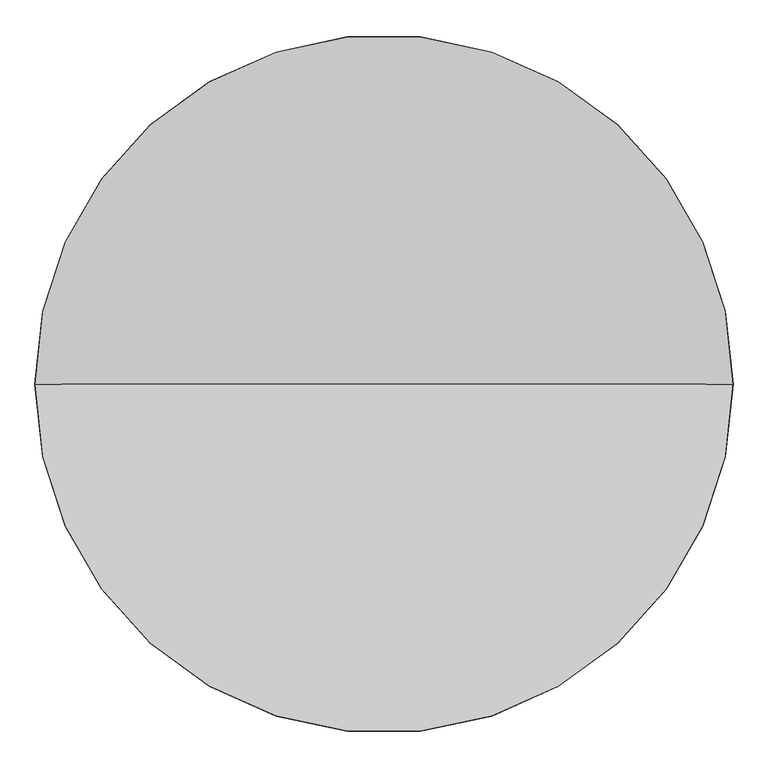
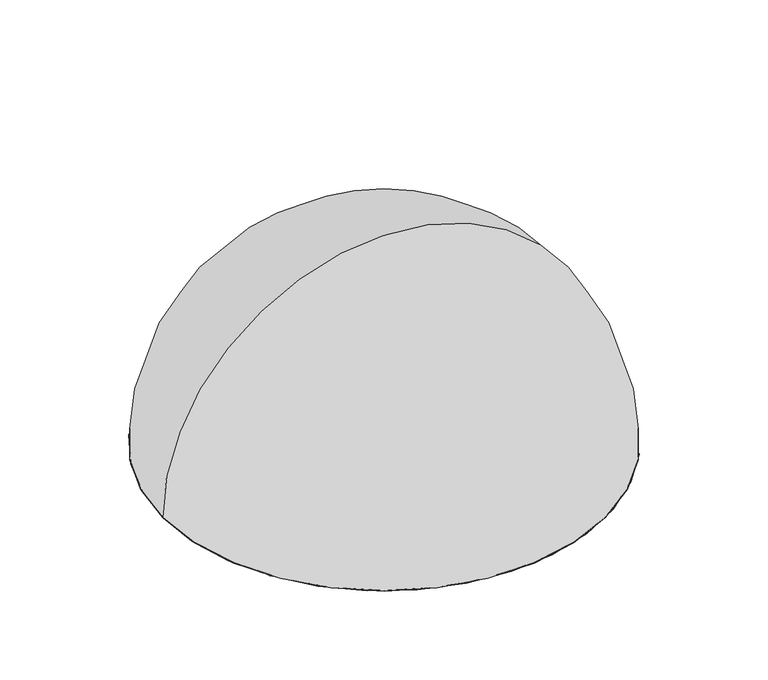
"""IFC4 building model written with IfcOpenShell, lengths in millimetres: alarm geometry, 4400I_Analog Multi Detector : 4400I-B_4412F-B."""

from ifc_helpers import new_model, si_unit, point, frame, origin, origin_with_axes, origin_2d, place, context, project, spatial, polyline, circle_curve, ellipse_curve, trimmed, segment, composite_curve, outline, extrude, source, transform, mapped, element, save
from ifc_brep_helpers import plane_surface, cylinder_surface, revolved_surface, advanced_brep


def alarm_aebe6886(model_context):
    return source(origin(), model_context, "Body", "SolidModel", [
        advanced_brep(
        [(49.4021885, 0.0, 27.3), (-49.4021885, 0.0, 27.3), (-29.0341186, 0.0, 34.1490601), (29.0341186, 0.0, 34.1490601), (46.9790343, 0.0, 27.3), (-46.9790343, 0.0, 27.3), (26.6109644, 0.0, 34.1490601), (-26.6109644, 0.0, 34.1490601)],
        [
            (0, 1, circle_curve(frame((0.0, 0.0, 27.3), z_axis=(0.0, 0.0, 1.0), x_axis=(-1.0, 0.0, 0.0)), 49.4021885)),
            (1, 2),
            (2, 3, circle_curve(frame((0.0, 0.0, 34.1490601), z_axis=(0.0, 0.0, -1.0), x_axis=(-1.0, 0.0, 0.0)), 29.0341186)),
            (3, 0),
            (1, 0, circle_curve(frame((0.0, 0.0, 27.3), z_axis=(0.0, 0.0, 1.0), x_axis=(-1.0, 0.0, 0.0)), 49.4021885)),
            (3, 2, circle_curve(frame((0.0, 0.0, 34.1490601), z_axis=(0.0, 0.0, -1.0), x_axis=(-1.0, 0.0, 0.0)), 29.0341186)),
            (4, 5, circle_curve(frame((0.0, 0.0, 27.3), z_axis=(0.0, 0.0, 1.0), x_axis=(-1.0, 0.0, 0.0)), 46.9790343)),
            (5, 1),
            (0, 4),
            (5, 4, circle_curve(frame((0.0, 0.0, 27.3), z_axis=(0.0, 0.0, 1.0), x_axis=(-1.0, 0.0, 0.0)), 46.9790343)),
            (6, 7, circle_curve(frame((0.0, 0.0, 34.1490601), z_axis=(0.0, 0.0, 1.0), x_axis=(-1.0, 0.0, 0.0)), 26.6109644)),
            (7, 5),
            (4, 6),
            (7, 6, circle_curve(frame((0.0, 0.0, 34.1490601), z_axis=(0.0, 0.0, 1.0), x_axis=(-1.0, 0.0, 0.0)), 26.6109644)),
            (2, 7),
            (6, 3),
        ],
        [
            revolved_surface(polyline([(-29.0341186, 0.0, 34.1490601), (-49.4021885, 0.0, 27.3)]), (0.0, 0.0, 2617.6581012), (0.0, 0.0, -1.0)),
            plane_surface(frame((0.0, 0.0, 27.3), z_axis=(0.0, 0.0, -1.0), x_axis=(-1.0, 0.0, 0.0))),
            revolved_surface(polyline([(-46.9790343, 0.0, 27.3), (-26.6109644, 0.0, 34.1490601)]), (0.0, 0.0, 2617.6581012), (0.0, 0.0, -1.0)),
            plane_surface(frame((0.0, 0.0, 34.1490601), z_axis=(0.0, 0.0, 1.0), x_axis=(-1.0, 0.0, 0.0))),
        ],
        [
            (0, [[1, 2, 3, 4]]),
            (0, [[5, -4, 6, -2]]),
            (1, [[7, 8, -1, 9]]),
            (1, [[10, -9, -5, -8]]),
            (2, [[11, 12, -7, 13]]),
            (2, [[14, -13, -10, -12]]),
            (3, [[-3, 15, -11, 16]]),
            (3, [[-6, -16, -14, -15]]),
        ],
    ),
        advanced_brep(
        [(-25.0, 0.0, 55.6), (25.0, 0.0, 55.6), (-10.2364426, 22.8082275, 34.1490601), (-7.8171012, 23.7464298, 34.1490601), (-6.566365, 19.9470011, 34.1490601), (-0.7601379, 20.9862381, 34.1490601), (-0.7748533, 24.9879892, 34.1490601), (1.8194655, 24.933703, 34.1490601), (1.528351, 20.9443105, 34.1490601), (7.2926143, 19.6930895, 34.1490601), (8.8036125, 23.3986411, 34.1490601), (11.1815896, 22.3600549, 34.1490601), (9.3925353, 18.7824461, 34.1490601), (14.2453716, 15.4294973, 34.1490601), (17.0541691, 18.2799157, 34.1490601), (18.857118, 16.4136864, 34.1490601), (15.8399791, 13.7874966, 34.1490601), (19.0494019, 8.8385682, 34.1490601), (22.7323284, 10.4039053, 34.1490601), (23.688298, 7.9915291, 34.1490601), (19.8981703, 6.7128844, 34.1490601), (20.9800803, 0.9144573, 34.1490601), (24.9816149, 0.9586025, 34.1490601), (25.0, 0.0, 34.1490601), (24.9464097, -1.6360453, 34.1490601), (20.9549841, -1.3742781, 34.1490601), (19.7461893, -7.1475874, 34.1490601), (23.4627531, -8.6312929, 34.1490601), (22.4416834, -11.0168438, 34.1490601), (18.851014, -9.2541488, 34.1490601), (15.5338454, -14.1315126, 34.1490601), (18.4048435, -16.9192711, 34.1490601), (16.5519242, -18.7358962, 34.1490601), (13.9036163, -15.7381528, 34.1490601), (8.978425, -18.9838849, 34.1490601), (10.5708052, -22.6551998, 34.1490601), (8.1655248, -23.628885, 34.1490601), (6.8590408, -19.8482634, 34.1490601), (1.0687273, -20.9727877, 34.1490601), (1.1422999, -24.9738894, 34.1490601), (-1.4525367, -24.9577671, 34.1490601), (-1.2201308, -20.9645243, 34.1490601), (-7.0021739, -19.7982211, 34.1490601), (-8.4585064, -23.5255961, 34.1490601), (-10.8515021, -22.5220981, 34.1490601), (-9.1152617, -18.9185624, 34.1490601), (-14.0168893, -15.6373532, 34.1490601), (-16.7834581, -18.5287758, 34.1490601), (-18.613661, -16.6892667, 34.1490601), (-15.6354753, -14.018984, 34.1490601), (-18.9173411, -9.1177961, 34.1490601), (-22.5768458, -10.7371334, 34.1490601), (-23.5681939, -8.3390788, 34.1490601), (-19.7972829, -7.0048262, 34.1490601), (-20.9643607, -1.2229394, 34.1490601), (-24.9648131, -1.3259355, 34.1490601), (-25.0, 0.0, 34.1490601), (-24.9677746, 1.2689495, 34.1490601), (-20.9729306, 1.0659176, 34.1490601), (-19.8491821, 6.8563817, 34.1490601), (-23.5871666, 8.2852624, 34.1490601), (-22.2772169, 11.3457307, 34.1490601), (-18.7128622, 9.5304138, 34.1490601), (-15.3243147, 14.3584602, 34.1490601), (-18.1539992, 17.1881446, 34.1490601), (-16.2745608, 18.9773199, 34.1490601), (-13.6706311, 15.9409487, 34.1490601), (-8.6982334, 19.1138885, 34.1490601), (-24.9648131, -1.3259355, 53.5967715), (-23.5681939, -8.3390788, 53.5967715), (-22.5768458, -10.7371334, 53.5967715), (-18.613661, -16.6892667, 53.5967715), (-16.7834581, -18.5287758, 53.5967715), (-10.8515021, -22.5220981, 53.5967715), (-8.4585064, -23.5255961, 53.5967715), (-1.4525367, -24.9577671, 53.5967715), (1.1422999, -24.9738894, 53.5967715), (8.1655248, -23.628885, 53.5967715), (10.5708052, -22.6551998, 53.5967715), (16.5519242, -18.7358962, 53.5967715), (18.4048435, -16.9192711, 53.5967715), (22.4416834, -11.0168438, 53.5967715), (23.4627531, -8.6312929, 53.5967715), (24.9464097, -1.6360453, 53.5967715), (24.9816149, 0.9586025, 53.5967715), (23.688298, 7.9915291, 53.5967715), (22.7323284, 10.4039053, 53.5967715), (18.857118, 16.4136864, 53.5967715), (17.0541691, 18.2799157, 53.5967715), (11.1815896, 22.3600549, 53.5967715), (8.8036125, 23.3986411, 53.5967715), (1.8194655, 24.933703, 53.5967715), (-0.7748533, 24.9879892, 53.5967715), (-7.8171012, 23.7464298, 53.5967715), (-10.2364426, 22.8082275, 53.5967715), (-16.2745608, 18.9773199, 53.5967715), (-18.1539992, 17.1881446, 53.5967715), (-22.2772169, 11.3457307, 53.5967715), (-23.5871666, 8.2852624, 53.5967715), (-24.9677746, 1.2689495, 53.5967715), (-8.6982334, 19.1138885, 53.5967715), (-13.6706311, 15.9409487, 53.5967715), (-0.7601379, 20.9862381, 53.5967715), (-6.566365, 19.9470011, 53.5967715), (7.2926143, 19.6930895, 53.5967715), (1.528351, 20.9443105, 53.5967715), (14.2453716, 15.4294973, 53.5967715), (9.3925353, 18.7824461, 53.5967715), (19.0494019, 8.8385682, 53.5967715), (15.8399791, 13.7874966, 53.5967715), (20.9800803, 0.9144573, 53.5967715), (19.8981703, 6.7128844, 53.5967715), (19.7461893, -7.1475874, 53.5967715), (20.9549841, -1.3742781, 53.5967715), (15.5338454, -14.1315126, 53.5967715), (18.851014, -9.2541488, 53.5967715), (8.978425, -18.9838849, 53.5967715), (13.9036163, -15.7381528, 53.5967715), (1.0687273, -20.9727877, 53.5967715), (6.8590408, -19.8482634, 53.5967715), (-7.0021739, -19.7982211, 53.5967715), (-1.2201308, -20.9645243, 53.5967715), (-14.0168893, -15.6373532, 53.5967715), (-9.1152617, -18.9185624, 53.5967715), (-18.9173411, -9.1177961, 53.5967715), (-15.6354753, -14.018984, 53.5967715), (-20.9643607, -1.2229394, 53.5967715), (-19.7972829, -7.0048262, 53.5967715), (-19.8491821, 6.8563817, 53.5967715), (-20.9729306, 1.0659176, 53.5967715), (-15.3243147, 14.3584602, 53.5967715), (-18.7128622, 9.5304138, 53.5967715)],
        [
            (0, 1, circle_curve(frame((0.0, 0.0, 55.6), z_axis=(0.0, 0.0, 1.0), x_axis=(1.0, 0.0, 0.0)), 25.0)),
            (1, 0, circle_curve(frame((0.0, 0.0, 55.6), z_axis=(0.0, 0.0, 1.0), x_axis=(1.0, 0.0, 0.0)), 25.0)),
            (2, 3, circle_curve(frame((0.0, 0.0, 34.1490601), z_axis=(0.0, 0.0, -1.0), x_axis=(1.0, 0.0, 0.0)), 25.0)),
            (3, 4),
            (4, 5, circle_curve(frame((0.0, 0.0, 34.1490601), z_axis=(0.0, 0.0, -1.0), x_axis=(0.7097021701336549, -0.7045018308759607, 0.0)), 21.0)),
            (5, 6),
            (6, 7, circle_curve(frame((0.0, 0.0, 34.1490601), z_axis=(0.0, 0.0, -1.0), x_axis=(1.0, 0.0, 0.0)), 25.0)),
            (7, 8),
            (8, 9, circle_curve(frame((0.0, 0.0, 34.1490601), z_axis=(0.0, 0.0, -1.0), x_axis=(0.38777352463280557, -0.9217546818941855, 0.0)), 21.0)),
            (9, 10),
            (10, 11, circle_curve(frame((0.0, 0.0, 34.1490601), z_axis=(0.0, 0.0, -1.0), x_axis=(1.0, 0.0, 0.0)), 25.0)),
            (11, 12),
            (12, 13, circle_curve(frame((0.0, 0.0, 34.1490601), z_axis=(0.0, 0.0, -1.0), x_axis=(0.0073543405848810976, -0.9999729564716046, 0.0)), 21.0)),
            (13, 14),
            (14, 15, circle_curve(frame((0.0, 0.0, 34.1490601), z_axis=(0.0, 0.0, -1.0), x_axis=(1.0, 0.0, 0.0)), 25.0)),
            (15, 16),
            (16, 17, circle_curve(frame((0.0, 0.0, 34.1490601), z_axis=(0.0, 0.0, -1.0), x_axis=(-0.3741741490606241, -0.9273584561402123, 0.0)), 21.0)),
            (17, 18),
            (18, 19, circle_curve(frame((0.0, 0.0, 34.1490601), z_axis=(0.0, 0.0, -1.0), x_axis=(1.0, 0.0, 0.0)), 25.0)),
            (19, 20),
            (20, 21, circle_curve(frame((0.0, 0.0, 34.1490601), z_axis=(0.0, 0.0, -1.0), x_axis=(-0.6992633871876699, -0.7148641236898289, 0.0)), 21.0)),
            (21, 22),
            (22, 23, circle_curve(frame((0.0, 0.0, 34.1490601), z_axis=(0.0, 0.0, -1.0), x_axis=(1.0, 0.0, 0.0)), 25.0)),
            (23, 24, circle_curve(frame((0.0, 0.0, 34.1490601), z_axis=(0.0, 0.0, -1.0), x_axis=(1.0, 0.0, 0.0)), 25.0)),
            (24, 25),
            (25, 26, circle_curve(frame((0.0, 0.0, 34.1490601), z_axis=(0.0, 0.0, -1.0), x_axis=(-0.9188779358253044, -0.39454193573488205, 0.0)), 21.0)),
            (26, 27),
            (27, 28, circle_curve(frame((0.0, 0.0, 34.1490601), z_axis=(0.0, 0.0, -1.0), x_axis=(1.0, 0.0, 0.0)), 25.0)),
            (28, 29),
            (29, 30, circle_curve(frame((0.0, 0.0, 34.1490601), z_axis=(0.0, 0.0, -1.0), x_axis=(-0.9998918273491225, -0.014708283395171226, 0.0)), 21.0)),
            (30, 31),
            (31, 32, circle_curve(frame((0.0, 0.0, 34.1490601), z_axis=(0.0, 0.0, -1.0), x_axis=(1.0, 0.0, 0.0)), 25.0)),
            (32, 33),
            (33, 34, circle_curve(frame((0.0, 0.0, 34.1490601), z_axis=(0.0, 0.0, -1.0), x_axis=(-0.9300851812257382, 0.3673439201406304, 0.0)), 21.0)),
            (34, 35),
            (35, 36, circle_curve(frame((0.0, 0.0, 34.1490601), z_axis=(0.0, 0.0, -1.0), x_axis=(1.0, 0.0, 0.0)), 25.0)),
            (36, 37),
            (37, 38, circle_curve(frame((0.0, 0.0, 34.1490601), z_axis=(0.0, 0.0, -1.0), x_axis=(-0.7199874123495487, 0.6939871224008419, 0.0)), 21.0)),
            (38, 39),
            (39, 40, circle_curve(frame((0.0, 0.0, 34.1490601), z_axis=(0.0, 0.0, -1.0), x_axis=(1.0, 0.0, 0.0)), 25.0)),
            (40, 41),
            (41, 42, circle_curve(frame((0.0, 0.0, 34.1490601), z_axis=(0.0, 0.0, -1.0), x_axis=(-0.4012890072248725, 0.9159514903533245, 0.0)), 21.0)),
            (42, 43),
            (43, 44, circle_curve(frame((0.0, 0.0, 34.1490601), z_axis=(0.0, 0.0, -1.0), x_axis=(1.0, 0.0, 0.0)), 25.0)),
            (44, 45),
            (45, 46, circle_curve(frame((0.0, 0.0, 34.1490601), z_axis=(0.0, 0.0, -1.0), x_axis=(-0.022061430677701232, 0.9997566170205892, 0.0)), 21.0)),
            (46, 47),
            (47, 48, circle_curve(frame((0.0, 0.0, 34.1490601), z_axis=(0.0, 0.0, -1.0), x_axis=(1.0, 0.0, 0.0)), 25.0)),
            (48, 49),
            (49, 50, circle_curve(frame((0.0, 0.0, 34.1490601), z_axis=(0.0, 0.0, -1.0), x_axis=(0.36049382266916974, 0.9327616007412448, 0.0)), 21.0)),
            (50, 51),
            (51, 52, circle_curve(frame((0.0, 0.0, 34.1490601), z_axis=(0.0, 0.0, -1.0), x_axis=(1.0, 0.0, 0.0)), 25.0)),
            (52, 53),
            (53, 54, circle_curve(frame((0.0, 0.0, 34.1490601), z_axis=(0.0, 0.0, -1.0), x_axis=(0.6886733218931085, 0.7250717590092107, 0.0)), 21.0)),
            (54, 55),
            (55, 56, circle_curve(frame((0.0, 0.0, 34.1490601), z_axis=(0.0, 0.0, -1.0), x_axis=(1.0, 0.0, 0.0)), 25.0)),
            (56, 57, circle_curve(frame((0.0, 0.0, 34.1490601), z_axis=(0.0, 0.0, -1.0), x_axis=(1.0, 0.0, 0.0)), 25.0)),
            (57, 58),
            (58, 59, circle_curve(frame((0.0, 0.0, 34.1490601), z_axis=(0.0, 0.0, -1.0), x_axis=(0.9129755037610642, 0.4080143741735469, 0.0)), 21.0)),
            (59, 60),
            (60, 61, circle_curve(frame((0.0, 0.0, 34.1490601), z_axis=(0.0, 0.0, -1.0), x_axis=(1.0, 0.0, 0.0)), 25.0)),
            (61, 62),
            (62, 63, circle_curve(frame((0.0, 0.0, 34.1490601), z_axis=(0.0, 0.0, -1.0), x_axis=(1.0, 0.0, 0.0)), 21.0)),
            (63, 64),
            (64, 65, circle_curve(frame((0.0, 0.0, 34.1490601), z_axis=(0.0, 0.0, -1.0), x_axis=(1.0, 0.0, 0.0)), 25.0)),
            (65, 66),
            (66, 67, circle_curve(frame((0.0, 0.0, 34.1490601), z_axis=(0.0, 0.0, -1.0), x_axis=(0.9245815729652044, -0.3809841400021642, 0.0)), 21.0)),
            (67, 2),
            (0, 56),
            (55, 68),
            (68, 69, circle_curve(frame((0.0, 0.0, 53.5967715), z_axis=(0.0, 0.0, 1.0), x_axis=(1.0, 0.0, 0.0)), 25.0)),
            (69, 52),
            (51, 70),
            (70, 71, circle_curve(frame((0.0, 0.0, 53.5967715), z_axis=(0.0, 0.0, 1.0), x_axis=(1.0, 0.0, 0.0)), 25.0)),
            (71, 48),
            (47, 72),
            (72, 73, circle_curve(frame((0.0, 0.0, 53.5967715), z_axis=(0.0, 0.0, 1.0), x_axis=(1.0, 0.0, 0.0)), 25.0)),
            (73, 44),
            (43, 74),
            (74, 75, circle_curve(frame((0.0, 0.0, 53.5967715), z_axis=(0.0, 0.0, 1.0), x_axis=(1.0, 0.0, 0.0)), 25.0)),
            (75, 40),
            (39, 76),
            (76, 77, circle_curve(frame((0.0, 0.0, 53.5967715), z_axis=(0.0, 0.0, 1.0), x_axis=(1.0, 0.0, 0.0)), 25.0)),
            (77, 36),
            (35, 78),
            (78, 79, circle_curve(frame((0.0, 0.0, 53.5967715), z_axis=(0.0, 0.0, 1.0), x_axis=(1.0, 0.0, 0.0)), 25.0)),
            (79, 32),
            (31, 80),
            (80, 81, circle_curve(frame((0.0, 0.0, 53.5967715), z_axis=(0.0, 0.0, 1.0), x_axis=(1.0, 0.0, 0.0)), 25.0)),
            (81, 28),
            (27, 82),
            (82, 83, circle_curve(frame((0.0, 0.0, 53.5967715), z_axis=(0.0, 0.0, 1.0), x_axis=(1.0, 0.0, 0.0)), 25.0)),
            (83, 24),
            (23, 1),
            (22, 84),
            (84, 85, circle_curve(frame((0.0, 0.0, 53.5967715), z_axis=(0.0, 0.0, 1.0), x_axis=(1.0, 0.0, 0.0)), 25.0)),
            (85, 19),
            (18, 86),
            (86, 87, circle_curve(frame((0.0, 0.0, 53.5967715), z_axis=(0.0, 0.0, 1.0), x_axis=(1.0, 0.0, 0.0)), 25.0)),
            (87, 15),
            (14, 88),
            (88, 89, circle_curve(frame((0.0, 0.0, 53.5967715), z_axis=(0.0, 0.0, 1.0), x_axis=(1.0, 0.0, 0.0)), 25.0)),
            (89, 11),
            (10, 90),
            (90, 91, circle_curve(frame((0.0, 0.0, 53.5967715), z_axis=(0.0, 0.0, 1.0), x_axis=(1.0, 0.0, 0.0)), 25.0)),
            (91, 7),
            (6, 92),
            (92, 93, circle_curve(frame((0.0, 0.0, 53.5967715), z_axis=(0.0, 0.0, 1.0), x_axis=(1.0, 0.0, 0.0)), 25.0)),
            (93, 3),
            (2, 94),
            (94, 95, circle_curve(frame((0.0, 0.0, 53.5967715), z_axis=(0.0, 0.0, 1.0), x_axis=(1.0, 0.0, 0.0)), 25.0)),
            (95, 65),
            (64, 96),
            (96, 97, circle_curve(frame((0.0, 0.0, 53.5967715), z_axis=(0.0, 0.0, 1.0), x_axis=(1.0, 0.0, 0.0)), 25.0)),
            (97, 61),
            (60, 98),
            (98, 99, circle_curve(frame((0.0, 0.0, 53.5967715), z_axis=(0.0, 0.0, 1.0), x_axis=(1.0, 0.0, 0.0)), 25.0)),
            (99, 57),
            (100, 101, circle_curve(frame((0.0, 0.0, 53.5967715), z_axis=(0.0, 0.0, 1.0), x_axis=(0.9245815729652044, -0.3809841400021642, 0.0)), 21.0)),
            (101, 95),
            (94, 100),
            (102, 103, circle_curve(frame((0.0, 0.0, 53.5967715), z_axis=(0.0, 0.0, 1.0), x_axis=(0.7097021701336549, -0.7045018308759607, 0.0)), 21.0)),
            (103, 93),
            (92, 102),
            (104, 105, circle_curve(frame((0.0, 0.0, 53.5967715), z_axis=(0.0, 0.0, 1.0), x_axis=(0.38777352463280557, -0.9217546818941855, 0.0)), 21.0)),
            (105, 91),
            (90, 104),
            (106, 107, circle_curve(frame((0.0, 0.0, 53.5967715), z_axis=(0.0, 0.0, 1.0), x_axis=(0.0073543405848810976, -0.9999729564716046, 0.0)), 21.0)),
            (107, 89),
            (88, 106),
            (108, 109, circle_curve(frame((0.0, 0.0, 53.5967715), z_axis=(0.0, 0.0, 1.0), x_axis=(-0.3741741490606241, -0.9273584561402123, 0.0)), 21.0)),
            (109, 87),
            (86, 108),
            (110, 111, circle_curve(frame((0.0, 0.0, 53.5967715), z_axis=(0.0, 0.0, 1.0), x_axis=(-0.6992633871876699, -0.7148641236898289, 0.0)), 21.0)),
            (111, 85),
            (84, 110),
            (112, 113, circle_curve(frame((0.0, 0.0, 53.5967715), z_axis=(0.0, 0.0, 1.0), x_axis=(-0.9188779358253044, -0.39454193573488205, 0.0)), 21.0)),
            (113, 83),
            (82, 112),
            (114, 115, circle_curve(frame((0.0, 0.0, 53.5967715), z_axis=(0.0, 0.0, 1.0), x_axis=(-0.9998918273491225, -0.014708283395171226, 0.0)), 21.0)),
            (115, 81),
            (80, 114),
            (116, 117, circle_curve(frame((0.0, 0.0, 53.5967715), z_axis=(0.0, 0.0, 1.0), x_axis=(-0.9300851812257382, 0.3673439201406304, 0.0)), 21.0)),
            (117, 79),
            (78, 116),
            (118, 119, circle_curve(frame((0.0, 0.0, 53.5967715), z_axis=(0.0, 0.0, 1.0), x_axis=(-0.7199874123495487, 0.6939871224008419, 0.0)), 21.0)),
            (119, 77),
            (76, 118),
            (120, 121, circle_curve(frame((0.0, 0.0, 53.5967715), z_axis=(0.0, 0.0, 1.0), x_axis=(-0.4012890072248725, 0.9159514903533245, 0.0)), 21.0)),
            (121, 75),
            (74, 120),
            (122, 123, circle_curve(frame((0.0, 0.0, 53.5967715), z_axis=(0.0, 0.0, 1.0), x_axis=(-0.022061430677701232, 0.9997566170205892, 0.0)), 21.0)),
            (123, 73),
            (72, 122),
            (124, 125, circle_curve(frame((0.0, 0.0, 53.5967715), z_axis=(0.0, 0.0, 1.0), x_axis=(0.36049382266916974, 0.9327616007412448, 0.0)), 21.0)),
            (125, 71),
            (70, 124),
            (126, 127, circle_curve(frame((0.0, 0.0, 53.5967715), z_axis=(0.0, 0.0, 1.0), x_axis=(0.6886733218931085, 0.7250717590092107, 0.0)), 21.0)),
            (127, 69),
            (68, 126),
            (128, 129, circle_curve(frame((0.0, 0.0, 53.5967715), z_axis=(0.0, 0.0, 1.0), x_axis=(0.9129755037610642, 0.4080143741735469, 0.0)), 21.0)),
            (129, 99),
            (98, 128),
            (130, 131, circle_curve(frame((0.0, 0.0, 53.5967715), z_axis=(0.0, 0.0, 1.0), x_axis=(1.0, 0.0, 0.0)), 21.0)),
            (131, 97),
            (96, 130),
            (100, 67),
            (66, 101),
            (102, 5),
            (4, 103),
            (104, 9),
            (8, 105),
            (106, 13),
            (12, 107),
            (108, 17),
            (16, 109),
            (110, 21),
            (20, 111),
            (26, 112),
            (113, 25),
            (30, 114),
            (115, 29),
            (34, 116),
            (117, 33),
            (119, 37),
            (118, 38),
            (42, 120),
            (121, 41),
            (46, 122),
            (123, 45),
            (125, 49),
            (124, 50),
            (127, 53),
            (126, 54),
            (128, 59),
            (58, 129),
            (130, 63),
            (62, 131),
        ],
        [
            plane_surface(frame((25.0, 0.0, 55.6), z_axis=(0.0, 0.0, 1.0), x_axis=(0.0, 1.0, 0.0))),
            plane_surface(frame((25.0, 0.0, 34.1490601), z_axis=(0.0, 0.0, -1.0), x_axis=(0.0, -1.0, 0.0))),
            cylinder_surface(frame((0.0, 0.0, 34.1490601), z_axis=(0.0, 0.0, 1.0), x_axis=(1.0, 0.0, 0.0)), 25.0),
            plane_surface(frame((19.416213, -8.0006669, 53.5967715), z_axis=(0.0, 0.0, -1.0), x_axis=(-0.38098414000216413, -0.9245815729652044, 0.0))),
            cylinder_surface(frame((0.0, 0.0, 34.1490601), z_axis=(0.0, 0.0, -1.0000000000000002), x_axis=(0.9245815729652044, -0.3809841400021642, 0.0)), 21.0),
            plane_surface(frame((-8.6982334, 19.1138885, 53.5967715), z_axis=(-0.9231743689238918, -0.3843814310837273, 0.0), x_axis=(0.0, 0.0, -1.0))),
            plane_surface(frame((-18.8784906, 22.0136911, 53.5967715), z_axis=(0.7590927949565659, 0.6509824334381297, 0.0), x_axis=(0.0, 0.0, -1.0))),
            cylinder_surface(frame((0.0, 0.0, 8.6), z_axis=(0.0, 0.0, -1.0), x_axis=(0.7097021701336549, -0.7045018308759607, 0.0)), 21.0),
            plane_surface(frame((-0.7601379, 20.9862381, 53.5967715), z_axis=(-0.9999932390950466, -0.0036771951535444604, 0.0), x_axis=(0.0, 0.0, -1.0))),
            plane_surface(frame((-9.0678374, 27.5458586, 53.5967715), z_axis=(0.9498571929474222, 0.3126840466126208, 0.0), x_axis=(0.0, 0.0, -1.0))),
            cylinder_surface(frame((0.0, 0.0, 8.6), z_axis=(0.0, 0.0, -1.0000000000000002), x_axis=(0.38777352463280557, -0.9217546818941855, 0.0)), 21.0),
            plane_surface(frame((7.2926143, 19.6930895, 53.5967715), z_axis=(-0.9259762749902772, 0.37758169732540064, 0.0), x_axis=(0.0, 0.0, -1.0))),
            plane_surface(frame((2.1105799, 28.9230955, 53.5967715), z_axis=(0.9973481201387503, -0.07277861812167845, 0.0), x_axis=(0.0, 0.0, -1.0))),
            cylinder_surface(frame((0.0, 0.0, 8.6), z_axis=(0.0, 0.0, -1.0), x_axis=(0.0073543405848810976, -0.9999729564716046, 0.0)), 21.0),
            plane_surface(frame((14.2453716, 15.4294973, 53.5967715), z_axis=(-0.7122879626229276, 0.7018873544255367, 0.0), x_axis=(0.0, 0.0, -1.0))),
            plane_surface(frame((12.970644, 25.9376636, 53.5967715), z_axis=(0.8944021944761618, -0.44726358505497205, 0.0), x_axis=(0.0, 0.0, -1.0))),
            cylinder_surface(frame((0.0, 0.0, 8.6), z_axis=(0.0, 0.0, -1.0000000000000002), x_axis=(-0.3741741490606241, -0.9273584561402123, 0.0)), 21.0),
            plane_surface(frame((19.0494019, 8.8385682, 53.5967715), z_axis=(-0.39116037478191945, 0.9203225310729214, 0.0), x_axis=(0.0, 0.0, -1.0))),
            plane_surface(frame((21.8742569, 19.0398762, 53.5967715), z_axis=(0.6565474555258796, -0.7542847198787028, 0.0), x_axis=(0.0, 0.0, -1.0))),
            cylinder_surface(frame((0.0, 0.0, 8.6), z_axis=(0.0, 0.0, -1.0), x_axis=(-0.6992633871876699, -0.7148641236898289, 0.0)), 21.0),
            plane_surface(frame((20.9800803, 0.9144573, 53.5967715), z_axis=(-0.011031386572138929, 0.999939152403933, 0.0), x_axis=(0.0, 0.0, -1.0))),
            plane_surface(frame((27.4784257, 9.2701738, 53.5967715), z_axis=(0.3196611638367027, -0.9475319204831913, 0.0), x_axis=(0.0, 0.0, -1.0))),
            plane_surface(frame((19.7461893, -7.1475874, 53.5967715), z_axis=(0.37076154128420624, 0.9287280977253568, 0.0), x_axis=(0.0, 0.0, -1.0))),
            plane_surface(frame((28.9378352, -1.8978126, 53.5967715), z_axis=(-0.06544181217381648, -0.9978563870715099, 0.0), x_axis=(0.0, 0.0, -1.0))),
            cylinder_surface(frame((0.0, 0.0, 8.6), z_axis=(0.0, 0.0, -1.0), x_axis=(-0.9188779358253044, -0.39454193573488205, 0.0)), 21.0),
            plane_surface(frame((15.5338454, -14.1315126, 53.5967715), z_axis=(0.6966299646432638, 0.7174306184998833, 0.0), x_axis=(0.0, 0.0, -1.0))),
            plane_surface(frame((26.0323527, -12.7795388, 53.5967715), z_axis=(-0.44067375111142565, -0.8976673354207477, 0.0), x_axis=(0.0, 0.0, -1.0))),
            cylinder_surface(frame((0.0, 0.0, 8.6), z_axis=(0.0, 0.0, -1.0), x_axis=(-0.9998918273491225, -0.014708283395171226, 0.0)), 21.0),
            plane_surface(frame((8.978425, -18.9838849, 53.5967715), z_axis=(0.9174209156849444, 0.39791816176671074, 0.0), x_axis=(0.0, 0.0, -1.0))),
            plane_surface(frame((19.200232, -21.7336396, 53.5967715), z_axis=(-0.7494358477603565, -0.6620769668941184, 0.0), x_axis=(0.0, 0.0, -1.0))),
            cylinder_surface(frame((0.0, 0.0, 8.6), z_axis=(0.0, 0.0, -1.0000000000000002), x_axis=(-0.9300851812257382, 0.3673439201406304, 0.0)), 21.0),
            plane_surface(frame((9.4720088, -27.4095066, 53.5967715), z_axis=(-0.945155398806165, -0.3266209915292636, 0.0), x_axis=(0.0, 0.0, -1.0))),
            cylinder_surface(frame((0.0, 0.0, 8.6), z_axis=(0.0, 0.0, -1.0000000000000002), x_axis=(-0.7199874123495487, 0.6939871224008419, 0.0)), 21.0),
            plane_surface(frame((1.0687273, -20.9727877, 53.5967715), z_axis=(0.9998309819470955, 0.01838498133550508, 0.0), x_axis=(0.0, 0.0, -1.0))),
            plane_surface(frame((-7.0021739, -19.7982211, 53.5967715), z_axis=(0.9314296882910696, -0.3639213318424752, 0.0), x_axis=(0.0, 0.0, -1.0))),
            plane_surface(frame((-1.6849425, -28.9510098, 53.5967715), z_axis=(-0.9983106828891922, 0.058101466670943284, 0.0), x_axis=(0.0, 0.0, -1.0))),
            cylinder_surface(frame((0.0, 0.0, 8.6), z_axis=(0.0, 0.0, -1.0), x_axis=(-0.4012890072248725, 0.9159514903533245, 0.0)), 21.0),
            plane_surface(frame((-14.0168893, -15.6373532, 53.5967715), z_axis=(0.7225344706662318, -0.691334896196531, 0.0), x_axis=(0.0, 0.0, -1.0))),
            plane_surface(frame((-12.5877424, -26.1256338, 53.5967715), z_axis=(-0.9008839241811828, 0.43406008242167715, 0.0), x_axis=(0.0, 0.0, -1.0))),
            cylinder_surface(frame((0.0, 0.0, 8.6), z_axis=(0.0, 0.0, -1.0), x_axis=(-0.022061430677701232, 0.9997566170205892, 0.0)), 21.0),
            plane_surface(frame((-21.5918468, -19.3595494, 53.5967715), z_axis=(-0.6675706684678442, 0.7445464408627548, 0.0), x_axis=(0.0, 0.0, -1.0))),
            cylinder_surface(frame((0.0, 0.0, 8.6), z_axis=(0.0, 0.0, -1.0000000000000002), x_axis=(0.36049382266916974, 0.9327616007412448, 0.0)), 21.0),
            plane_surface(frame((-18.9173411, -9.1177961, 53.5967715), z_axis=(0.4046544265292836, -0.914469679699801, 0.0), x_axis=(0.0, 0.0, -1.0))),
            plane_surface(frame((-27.3391049, -9.6733314, 53.5967715), z_axis=(-0.3335631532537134, 0.9427277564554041, 0.0), x_axis=(0.0, 0.0, -1.0))),
            cylinder_surface(frame((0.0, 0.0, 8.6), z_axis=(0.0, 0.0, -1.0), x_axis=(0.6886733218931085, 0.7250717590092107, 0.0)), 21.0),
            plane_surface(frame((-20.9643607, -1.2229394, 53.5967715), z_axis=(0.025737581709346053, -0.9996687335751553, 0.0), x_axis=(0.0, 0.0, -1.0))),
            cylinder_surface(frame((0.0, 0.0, 8.6), z_axis=(0.0, 0.0, -1.0), x_axis=(0.9129755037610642, 0.4080143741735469, 0.0)), 21.0),
            plane_surface(frame((-19.8491821, 6.8563817, 53.5967715), z_axis=(-0.35706143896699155, -0.9340809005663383, 0.0), x_axis=(0.0, 0.0, -1.0))),
            plane_surface(frame((-28.9626185, 1.4719814, 53.5967715), z_axis=(0.05075797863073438, 0.998710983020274, 0.0), x_axis=(0.0, 0.0, -1.0))),
            cylinder_surface(frame((0.0, 0.0, 8.6), z_axis=(0.0, 0.0, -1.0), x_axis=(1.0, 0.0, 0.0)), 21.0),
            plane_surface(frame((-15.3243147, 14.3584602, 53.5967715), z_axis=(-0.7071067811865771, -0.7071067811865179, 0.0), x_axis=(0.0, 0.0, -1.0))),
            plane_surface(frame((-25.8415717, 13.1610476, 53.5967715), z_axis=(0.45382922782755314, 0.8910886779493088, 0.0), x_axis=(0.0, 0.0, -1.0))),
        ],
        [
            (0, [[1, 2]]),
            (1, [[3, 4, 5, 6, 7, 8, 9, 10, 11, 12, 13, 14, 15, 16, 17, 18, 19, 20, 21, 22, 23, 24, 25, 26, 27, 28, 29, 30, 31, 32, 33, 34, 35, 36, 37, 38, 39, 40, 41, 42, 43, 44, 45, 46, 47, 48, 49, 50, 51, 52, 53, 54, 55, 56, 57, 58, 59, 60, 61, 62, 63, 64, 65, 66, 67, 68]]),
            (2, [[-1, 69, -56, 70, 71, 72, -52, 73, 74, 75, -48, 76, 77, 78, -44, 79, 80, 81, -40, 82, 83, 84, -36, 85, 86, 87, -32, 88, 89, 90, -28, 91, 92, 93, -24, 94]]),
            (2, [[-2, -94, -23, 95, 96, 97, -19, 98, 99, 100, -15, 101, 102, 103, -11, 104, 105, 106, -7, 107, 108, 109, -3, 110, 111, 112, -65, 113, 114, 115, -61, 116, 117, 118, -57, -69]]),
            (3, [[119, 120, -111, 121]]),
            (3, [[122, 123, -108, 124]]),
            (3, [[125, 126, -105, 127]]),
            (3, [[128, 129, -102, 130]]),
            (3, [[131, 132, -99, 133]]),
            (3, [[134, 135, -96, 136]]),
            (3, [[137, 138, -92, 139]]),
            (3, [[140, 141, -89, 142]]),
            (3, [[143, 144, -86, 145]]),
            (3, [[146, 147, -83, 148]]),
            (3, [[149, 150, -80, 151]]),
            (3, [[152, 153, -77, 154]]),
            (3, [[155, 156, -74, 157]]),
            (3, [[158, 159, -71, 160]]),
            (3, [[161, 162, -117, 163]]),
            (3, [[164, 165, -114, 166]]),
            (4, [[-119, 167, -67, 168]]),
            (5, [[-167, -121, -110, -68]]),
            (6, [[-168, -66, -112, -120]]),
            (7, [[-122, 169, -5, 170]]),
            (8, [[-169, -124, -107, -6]]),
            (9, [[-170, -4, -109, -123]]),
            (10, [[-125, 171, -9, 172]]),
            (11, [[-171, -127, -104, -10]]),
            (12, [[-172, -8, -106, -126]]),
            (13, [[-128, 173, -13, 174]]),
            (14, [[-173, -130, -101, -14]]),
            (15, [[-174, -12, -103, -129]]),
            (16, [[-131, 175, -17, 176]]),
            (17, [[-175, -133, -98, -18]]),
            (18, [[-176, -16, -100, -132]]),
            (19, [[-134, 177, -21, 178]]),
            (20, [[-177, -136, -95, -22]]),
            (21, [[-178, -20, -97, -135]]),
            (22, [[179, -139, -91, -27]]),
            (23, [[180, -25, -93, -138]]),
            (24, [[-137, -179, -26, -180]]),
            (25, [[181, -142, -88, -31]]),
            (26, [[182, -29, -90, -141]]),
            (27, [[-140, -181, -30, -182]]),
            (28, [[183, -145, -85, -35]]),
            (29, [[184, -33, -87, -144]]),
            (30, [[-143, -183, -34, -184]]),
            (31, [[185, -37, -84, -147]]),
            (32, [[-146, 186, -38, -185]]),
            (33, [[-186, -148, -82, -39]]),
            (34, [[187, -151, -79, -43]]),
            (35, [[188, -41, -81, -150]]),
            (36, [[-149, -187, -42, -188]]),
            (37, [[189, -154, -76, -47]]),
            (38, [[190, -45, -78, -153]]),
            (39, [[-152, -189, -46, -190]]),
            (40, [[191, -49, -75, -156]]),
            (41, [[-155, 192, -50, -191]]),
            (42, [[-192, -157, -73, -51]]),
            (43, [[193, -53, -72, -159]]),
            (44, [[-158, 194, -54, -193]]),
            (45, [[-194, -160, -70, -55]]),
            (46, [[-161, 195, -59, 196]]),
            (47, [[-195, -163, -116, -60]]),
            (48, [[-196, -58, -118, -162]]),
            (49, [[-164, 197, -63, 198]]),
            (50, [[-197, -166, -113, -64]]),
            (51, [[-198, -62, -115, -165]]),
        ],
    ),
        advanced_brep(
        [(25.0, 0.0, 27.3), (-25.0, 0.0, 27.3), (-25.0, 0.0, 25.6), (25.0, 0.0, 25.6), (49.4021885, 0.0, 27.3), (-49.4021885, 0.0, 27.3), (51.0000836, 0.0, 25.6), (-51.0000836, 0.0, 25.6)],
        [
            (0, 1, circle_curve(frame((0.0, 0.0, 27.3), z_axis=(0.0, 0.0, 1.0), x_axis=(-1.0, 0.0, 0.0)), 25.0)),
            (1, 2),
            (2, 3, circle_curve(frame((0.0, 0.0, 25.6), z_axis=(0.0, 0.0, -1.0), x_axis=(-1.0, 0.0, 0.0)), 25.0)),
            (3, 0),
            (1, 0, circle_curve(frame((0.0, 0.0, 27.3), z_axis=(0.0, 0.0, 1.0), x_axis=(-1.0, 0.0, 0.0)), 25.0)),
            (3, 2, circle_curve(frame((0.0, 0.0, 25.6), z_axis=(0.0, 0.0, -1.0), x_axis=(-1.0, 0.0, 0.0)), 25.0)),
            (4, 5, circle_curve(frame((0.0, 0.0, 27.3), z_axis=(0.0, 0.0, 1.0), x_axis=(-1.0, 0.0, 0.0)), 49.4021885)),
            (5, 1),
            (0, 4),
            (5, 4, circle_curve(frame((0.0, 0.0, 27.3), z_axis=(0.0, 0.0, 1.0), x_axis=(-1.0, 0.0, 0.0)), 49.4021885)),
            (6, 7, circle_curve(frame((0.0, 0.0, 25.6), z_axis=(0.0, 0.0, 1.0), x_axis=(-1.0, 0.0, 0.0)), 51.0000836)),
            (7, 5, circle_curve(frame((-49.2482507, 0.0, 25.5543466), z_axis=(0.0, 1.0, 0.0), x_axis=(1.0, 0.0, 0.0)), 1.7524276)),
            (4, 6, circle_curve(frame((49.2482507, 0.0, 25.5543466), z_axis=(0.0, 1.0, 0.0), x_axis=(-1.0, 0.0, 0.0)), 1.7524276)),
            (7, 6, circle_curve(frame((0.0, 0.0, 25.6), z_axis=(0.0, 0.0, 1.0), x_axis=(-1.0, 0.0, 0.0)), 51.0000836)),
            (2, 7),
            (6, 3),
        ],
        [
            revolved_surface(polyline([(-25.0, 0.0, 25.59999999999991), (-25.0, 0.0, 27.300000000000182)]), (0.0, 0.0, 2617.6581012), (0.0, 0.0, -1.0)),
            plane_surface(frame((0.0, 0.0, 27.3), z_axis=(0.0, 0.0, 1.0), x_axis=(-1.0, 0.0, 0.0))),
            revolved_surface(trimmed(ellipse_curve(frame((-49.2482507, 0.0, 25.5543466), z_axis=(0.0, -1.0, 0.0), x_axis=(1.0, 0.0, 0.0)), 1.7524276, 1.7524276), [point((-49.4021885, 0.0, 27.3))], [point((-51.0000836, 0.0, 25.6))], True, "CARTESIAN"), (0.0, 0.0, 2617.6581012), (0.0, 0.0, -1.0)),
            plane_surface(frame((0.0, 0.0, 25.6), z_axis=(0.0, 0.0, -1.0), x_axis=(-1.0, 0.0, 0.0))),
        ],
        [
            (0, [[1, 2, 3, 4]]),
            (0, [[5, -4, 6, -2]]),
            (1, [[7, 8, -1, 9]]),
            (1, [[10, -9, -5, -8]]),
            (2, [[11, 12, -7, 13]]),
            (2, [[14, -13, -10, -12]]),
            (3, [[-3, 15, -11, 16]]),
            (3, [[-6, -16, -14, -15]]),
        ],
    ),
        extrude(outline(composite_curve([segment(trimmed(circle_curve(origin_2d(), 51.0), [point((-51.0, 0.0))], [point((51.0, 0.0))], False, "CARTESIAN"), True, "CONTINUOUS"), segment(trimmed(circle_curve(origin_2d(), 51.0), [point((51.0, 0.0))], [point((-51.0, 0.0))], False, "CARTESIAN"), True, "CONTINUOUS")], self_intersect=False), holes=[composite_curve([segment(trimmed(circle_curve(origin_2d(), 25.0), [point((-25.0, 0.0))], [point((25.0, 0.0))], True, "CARTESIAN"), True, "CONTINUOUS"), segment(trimmed(circle_curve(origin_2d(), 25.0), [point((25.0, 0.0))], [point((-25.0, 0.0))], True, "CARTESIAN"), True, "CONTINUOUS")], self_intersect=False)]), frame((0.0, 0.0, 14.6), z_axis=(0.0, 0.0, 1.0), x_axis=(1.0, 0.0, 0.0)), (0.0, 0.0, 1.0), 11.0),
        advanced_brep(
        [(-29.5, -2.5, 0.0), (-29.5, -2.5, 14.6), (-27.0, 0.0, 14.6), (-29.5, 2.5, 14.6), (-29.5, 2.5, 0.0), (-27.0, 0.0, 0.0), (-39.0, 2.5, 14.6), (-39.0, 2.5, 0.0), (-41.5, 0.0, 14.6), (-39.0, -2.5, 14.6), (-39.0, -2.5, 0.0), (-41.5, 0.0, 0.0), (29.5, -2.5, 0.0), (29.5, -2.5, 14.6), (39.0, -2.5, 14.6), (39.0, -2.5, 0.0), (41.5, 0.0, 14.6), (39.0, 2.5, 14.6), (39.0, 2.5, 0.0), (41.5, 0.0, 0.0), (29.5, 2.5, 14.6), (29.5, 2.5, 0.0), (27.0, 0.0, 0.0), (27.0, 0.0, 14.6), (51.0, 0.0, 14.6), (-51.0, 0.0, 14.6), (-48.5, 0.0, 14.6), (48.5, 0.0, 14.6), (51.0, 0.0, 0.0), (-51.0, 0.0, 0.0), (19.0126301, 0.0, 0.0), (-19.0126301, 0.0, 0.0), (44.5, 0.0, 14.6), (-44.5, 0.0, 14.6), (-19.0126301, 0.0, 14.6), (19.0126301, 0.0, 14.6), (44.5, 0.0, 23.3), (-44.5, 0.0, 23.3), (48.5, 0.0, 23.3), (-48.5, 0.0, 23.3)],
        [
            (0, 1),
            (1, 2, circle_curve(frame((-29.5, 0.0, 14.6), z_axis=(0.0, 0.0, 1.0), x_axis=(1.0, 0.0, 0.0)), 2.5)),
            (2, 3, circle_curve(frame((-29.5, 0.0, 14.6), z_axis=(0.0, 0.0, 1.0), x_axis=(1.0, 0.0, 0.0)), 2.5)),
            (3, 4),
            (4, 5, circle_curve(frame((-29.5, 0.0, 0.0), z_axis=(0.0, 0.0, -1.0), x_axis=(1.0, 0.0, 0.0)), 2.5)),
            (5, 0, circle_curve(frame((-29.5, 0.0, 0.0), z_axis=(0.0, 0.0, -1.0), x_axis=(1.0, 0.0, 0.0)), 2.5)),
            (3, 6),
            (6, 7),
            (7, 4),
            (6, 8, circle_curve(frame((-39.0, 0.0, 14.6), z_axis=(0.0, 0.0, 1.0), x_axis=(1.0, 0.0, 0.0)), 2.5)),
            (8, 9, circle_curve(frame((-39.0, 0.0, 14.6), z_axis=(0.0, 0.0, 1.0), x_axis=(1.0, 0.0, 0.0)), 2.5)),
            (9, 10),
            (10, 11, circle_curve(frame((-39.0, 0.0, 0.0), z_axis=(0.0, 0.0, -1.0), x_axis=(1.0, 0.0, 0.0)), 2.5)),
            (11, 7, circle_curve(frame((-39.0, 0.0, 0.0), z_axis=(0.0, 0.0, -1.0), x_axis=(1.0, 0.0, 0.0)), 2.5)),
            (0, 10),
            (9, 1),
            (12, 13),
            (13, 14),
            (14, 15),
            (15, 12),
            (14, 16, circle_curve(frame((39.0, 0.0, 14.6), z_axis=(0.0, 0.0, 1.0), x_axis=(1.0, 0.0, 0.0)), 2.5)),
            (16, 17, circle_curve(frame((39.0, 0.0, 14.6), z_axis=(0.0, 0.0, 1.0), x_axis=(1.0, 0.0, 0.0)), 2.5)),
            (17, 18),
            (18, 19, circle_curve(frame((39.0, 0.0, 0.0), z_axis=(0.0, 0.0, -1.0), x_axis=(1.0, 0.0, 0.0)), 2.5)),
            (19, 15, circle_curve(frame((39.0, 0.0, 0.0), z_axis=(0.0, 0.0, -1.0), x_axis=(1.0, 0.0, 0.0)), 2.5)),
            (17, 20),
            (20, 21),
            (21, 18),
            (12, 22, circle_curve(frame((29.5, 0.0, 0.0), z_axis=(0.0, 0.0, -1.0), x_axis=(1.0, 0.0, 0.0)), 2.5)),
            (22, 21, circle_curve(frame((29.5, 0.0, 0.0), z_axis=(0.0, 0.0, -1.0), x_axis=(1.0, 0.0, 0.0)), 2.5)),
            (20, 23, circle_curve(frame((29.5, 0.0, 14.6), z_axis=(0.0, 0.0, 1.0), x_axis=(1.0, 0.0, 0.0)), 2.5)),
            (23, 13, circle_curve(frame((29.5, 0.0, 14.6), z_axis=(0.0, 0.0, 1.0), x_axis=(1.0, 0.0, 0.0)), 2.5)),
            (24, 25, circle_curve(frame((0.0, 0.0, 14.6), z_axis=(0.0, 0.0, 1.0), x_axis=(-1.0, 0.0, 0.0)), 51.0)),
            (25, 26),
            (26, 27, circle_curve(frame((0.0, 0.0, 14.6), z_axis=(0.0, 0.0, -1.0), x_axis=(-1.0, 0.0, 0.0)), 48.5)),
            (27, 24),
            (25, 24, circle_curve(frame((0.0, 0.0, 14.6), z_axis=(0.0, 0.0, 1.0), x_axis=(-1.0, 0.0, 0.0)), 51.0)),
            (27, 26, circle_curve(frame((0.0, 0.0, 14.6), z_axis=(0.0, 0.0, -1.0), x_axis=(-1.0, 0.0, 0.0)), 48.5)),
            (24, 28),
            (28, 29, circle_curve(frame((0.0, 0.0, 0.0), z_axis=(0.0, 0.0, 1.0), x_axis=(-1.0, 0.0, 0.0)), 51.0)),
            (29, 25),
            (29, 28, circle_curve(frame((0.0, 0.0, 0.0), z_axis=(0.0, 0.0, 1.0), x_axis=(-1.0, 0.0, 0.0)), 51.0)),
            (28, 19),
            (22, 30),
            (30, 31, circle_curve(origin_with_axes(), 19.0126301)),
            (31, 5),
            (11, 29),
            (31, 30, circle_curve(origin_with_axes(), 19.0126301)),
            (32, 33, circle_curve(frame((0.0, 0.0, 14.6), z_axis=(0.0, 0.0, 1.0), x_axis=(-1.0, 0.0, 0.0)), 44.5)),
            (33, 8),
            (2, 34),
            (34, 35, circle_curve(frame((0.0, 0.0, 14.6), z_axis=(0.0, 0.0, -1.0), x_axis=(1.0, 0.0, 0.0)), 19.0126301)),
            (35, 23),
            (16, 32),
            (33, 32, circle_curve(frame((0.0, 0.0, 14.6), z_axis=(0.0, 0.0, 1.0), x_axis=(-1.0, 0.0, 0.0)), 44.5)),
            (35, 34, circle_curve(frame((0.0, 0.0, 14.6), z_axis=(0.0, 0.0, -1.0), x_axis=(1.0, 0.0, 0.0)), 19.0126301)),
            (32, 36),
            (36, 37, circle_curve(frame((0.0, 0.0, 23.3), z_axis=(0.0, 0.0, 1.0), x_axis=(-1.0, 0.0, 0.0)), 44.5)),
            (37, 33),
            (37, 36, circle_curve(frame((0.0, 0.0, 23.3), z_axis=(0.0, 0.0, 1.0), x_axis=(-1.0, 0.0, 0.0)), 44.5)),
            (36, 38),
            (38, 39, circle_curve(frame((0.0, 0.0, 23.3), z_axis=(0.0, 0.0, 1.0), x_axis=(-1.0, 0.0, 0.0)), 48.5)),
            (39, 37),
            (39, 38, circle_curve(frame((0.0, 0.0, 23.3), z_axis=(0.0, 0.0, 1.0), x_axis=(-1.0, 0.0, 0.0)), 48.5)),
            (26, 39),
            (38, 27),
            (31, 34),
            (35, 30),
        ],
        [
            revolved_surface(polyline([(-27.0, 0.0, 14.6), (-27.0, 0.0, 0.0)]), (-29.5, 0.0, 0.0), (0.0, 0.0, 1.0)),
            plane_surface(frame((-29.5, 2.5, 23.3), z_axis=(0.0, -1.0, 0.0), x_axis=(0.0, 0.0, -1.0))),
            revolved_surface(polyline([(-36.5, 0.0, 14.6), (-36.5, 0.0, 0.0)]), (-39.0, 0.0, 0.0), (0.0, 0.0, 1.0)),
            plane_surface(frame((-39.0, -2.5, 23.3), z_axis=(0.0, 1.0, 0.0), x_axis=(0.0, 0.0, -1.0))),
            plane_surface(frame((29.5, -2.5, 23.3), z_axis=(0.0, 1.0, 0.0), x_axis=(0.0, 0.0, -1.0))),
            revolved_surface(polyline([(41.5, 0.0, 14.6), (41.5, 0.0, 0.0)]), (39.0, 0.0, 0.0), (0.0, 0.0, 1.0)),
            plane_surface(frame((39.0, 2.5, 23.3), z_axis=(0.0, -1.0, 0.0), x_axis=(0.0, 0.0, -1.0))),
            revolved_surface(polyline([(32.0, 0.0, 14.6), (32.0, 0.0, 0.0)]), (29.5, 0.0, 0.0), (0.0, 0.0, 1.0)),
            plane_surface(frame((0.0, 0.0, 14.6), z_axis=(0.0, 0.0, 1.0), x_axis=(-1.0, 0.0, 0.0))),
            cylinder_surface(frame((0.0, 0.0, -11.8968302), z_axis=(0.0, 0.0, -1.0), x_axis=(-1.0, 0.0, 0.0)), 51.0),
            plane_surface(frame((0.0, 0.0, 0.0), z_axis=(0.0, 0.0, -1.0), x_axis=(-1.0, 0.0, 0.0))),
            revolved_surface(polyline([(-44.5, 0.0, 14.599999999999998), (-44.5, 0.0, 23.3)]), (0.0, 0.0, -11.8968302), (0.0, 0.0, -1.0)),
            plane_surface(frame((0.0, 0.0, 23.3), z_axis=(0.0, 0.0, 1.0), x_axis=(-1.0, 0.0, 0.0))),
            cylinder_surface(frame((0.0, 0.0, -11.8968302), z_axis=(0.0, 0.0, -1.0), x_axis=(-1.0, 0.0, 0.0)), 48.5),
            revolved_surface(polyline([(19.0126301, 0.0, 14.6), (19.0126301, 0.0, 0.0)]), (0.0, 0.0, 0.0), (0.0, 0.0, 1.0)),
        ],
        [
            (0, [[1, 2, 3, 4, 5, 6]]),
            (1, [[-4, 7, 8, 9]]),
            (2, [[-8, 10, 11, 12, 13, 14]]),
            (3, [[-1, 15, -12, 16]]),
            (4, [[17, 18, 19, 20]]),
            (5, [[-19, 21, 22, 23, 24, 25]]),
            (6, [[-23, 26, 27, 28]]),
            (7, [[-17, 29, 30, -27, 31, 32]]),
            (8, [[33, 34, 35, 36]]),
            (8, [[-34, 37, -36, 38]]),
            (9, [[-33, 39, 40, 41]]),
            (9, [[-37, -41, 42, -39]]),
            (10, [[-40, 43, -24, -28, -30, 44, 45, 46, -5, -9, -14, 47]]),
            (10, [[-42, -47, -13, -15, -6, -46, 48, -44, -29, -20, -25, -43]]),
            (8, [[49, 50, -10, -7, -3, 51, 52, 53, -31, -26, -22, 54]]),
            (8, [[55, -54, -21, -18, -32, -53, 56, -51, -2, -16, -11, -50]]),
            (11, [[-49, 57, 58, 59]]),
            (11, [[-55, -59, 60, -57]]),
            (12, [[-58, 61, 62, 63]]),
            (12, [[-60, -63, 64, -61]]),
            (13, [[-35, 65, -62, 66]]),
            (13, [[-38, -66, -64, -65]]),
            (14, [[67, -56, 68, -48]]),
            (14, [[-67, -45, -68, -52]]),
        ],
    ),
        extrude(outline(composite_curve([segment(trimmed(circle_curve(origin_2d(), 500.0), [point((-500.0, 0.0))], [point((500.0, 0.0))], False, "CARTESIAN"), True, "CONTINUOUS"), segment(trimmed(circle_curve(origin_2d(), 500.0), [point((500.0, 0.0))], [point((-500.0, 0.0))], False, "CARTESIAN"), True, "CONTINUOUS")], self_intersect=False)), origin_with_axes(), (0.0, 0.0, 1.0), 1.0),
        advanced_brep(
        [(0.0, 0.0, 0.0), (-500.0, 0.0, 0.0), (500.0, 0.0, 0.0), (0.0, 0.0, 500.0)],
        [
            (0, 1),
            (1, 2, circle_curve(frame((0.0, 0.0, 0.0), z_axis=(0.0, 0.0, -1.0), x_axis=(-1.0, 0.0, 0.0)), 500.0)),
            (2, 0),
            (2, 1, circle_curve(frame((0.0, 0.0, 0.0), z_axis=(0.0, 0.0, -1.0), x_axis=(-1.0, 0.0, 0.0)), 500.0)),
            (1, 3, circle_curve(frame((0.0, 0.0, 0.0), z_axis=(0.0, 1.0, 0.0), x_axis=(1.0, 0.0, 0.0)), 500.0)),
            (3, 2, circle_curve(frame((0.0, 0.0, 0.0), z_axis=(0.0, 1.0, 0.0), x_axis=(-1.0, 0.0, 0.0)), 500.0)),
        ],
        [
            plane_surface(frame((0.0, 0.0, 0.0), z_axis=(0.0, 0.0, -1.0), x_axis=(-1.0, 0.0, 0.0))),
            revolved_surface(trimmed(ellipse_curve(frame((0.0, 0.0, 0.0), z_axis=(0.0, -1.0, 0.0), x_axis=(1.0, 0.0, 0.0)), 500.0, 500.0), [point((0.0, 0.0, 500.0))], [point((-500.0, 0.0, 0.0))], True, "CARTESIAN"), (0.0, 0.0, 755.6), (0.0, 0.0, -1.0)),
        ],
        [
            (0, [[1, 2, 3]]),
            (0, [[-3, 4, -1]]),
            (1, [[-2, 5, 6]]),
            (1, [[-4, -6, -5]]),
        ],
    ),
    ])


if __name__ == "__main__":
    model = new_model("IFC4")
    model_context = context("Model", 3, world=origin())
    ifc_project = project(units=[si_unit("LENGTHUNIT", "METRE", prefix="MILLI")], contexts=[model_context])
    site = spatial("IfcSite", under=ifc_project)
    building = spatial("IfcBuilding", under=site)
    placement = place(None, origin())
    alarm_shape = alarm_aebe6886(model_context)
    element("IfcAlarm", 1, ObjectType="4400I_Analog Multi Detector : 4400I-B_4412F-B", at=placement, inside=building, context=model_context, shape_type="MappedRepresentation", body=[
        mapped(alarm_shape, transform((0.0, 0.0, 0.0), x_axis=(1.0, 0.0, 0.0), y_axis=(0.0, 1.0, 0.0), z_axis=(0.0, 0.0, 1.0))),
    ])
    save(model, "model.ifc")
